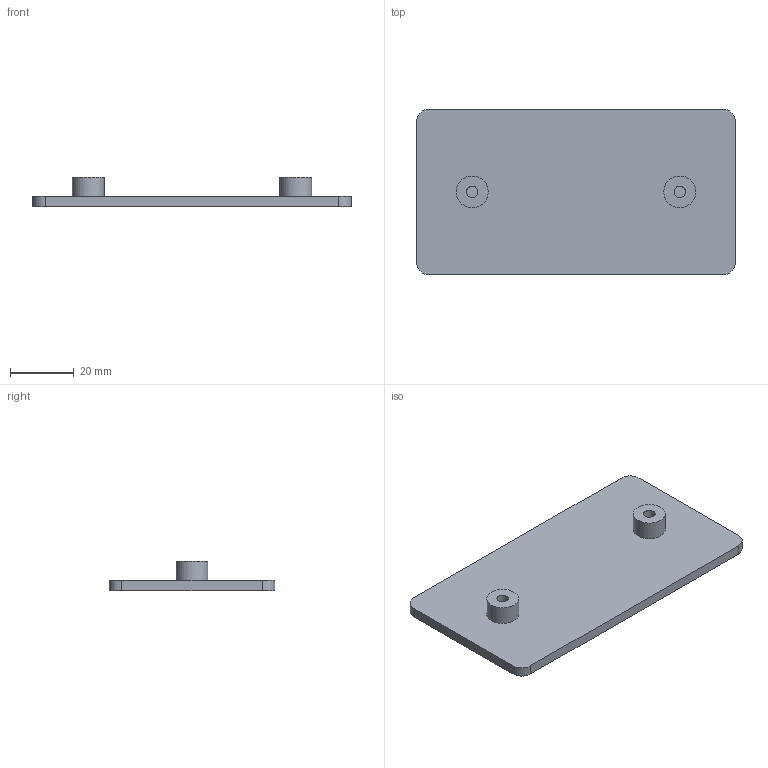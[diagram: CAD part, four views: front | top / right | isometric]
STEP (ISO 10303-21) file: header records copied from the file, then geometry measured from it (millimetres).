
FILE_DESCRIPTION(('Open CASCADE Model'),'2;1');
FILE_NAME('Open CASCADE Shape Model','2026-07-24T10:12:54',('Author'),( 'Open CASCADE'),'Open CASCADE STEP processor 7.9','Open CASCADE 7.9' ,'Unknown');
FILE_SCHEMA(('AUTOMOTIVE_DESIGN { 1 0 10303 214 1 1 1 1 }'));
Length unit declared in the file: millimetre
Products named in the file (1): Open CASCADE STEP translator 7.9 8
Bounding box: 100 x 52 x 9.2 mm (x, y, z)
Volume: 17406.2 mm3; surface area: 11847.4 mm2
Topology: 1 solids, 1 shells, 18 faces, 36 edges, 24 vertices
Faces by surface type: plane 10, cylinder 8
Full cylindrical faces by diameter (mm): 3.6 x2, 10 x2
Entity records: 972 total; most frequent: CARTESIAN_POINT 187, DIRECTION 156, LINE 76, VECTOR 76, ORIENTED_EDGE 72, PCURVE 72, DEFINITIONAL_REPRESENTATION 72, EDGE_CURVE 36
